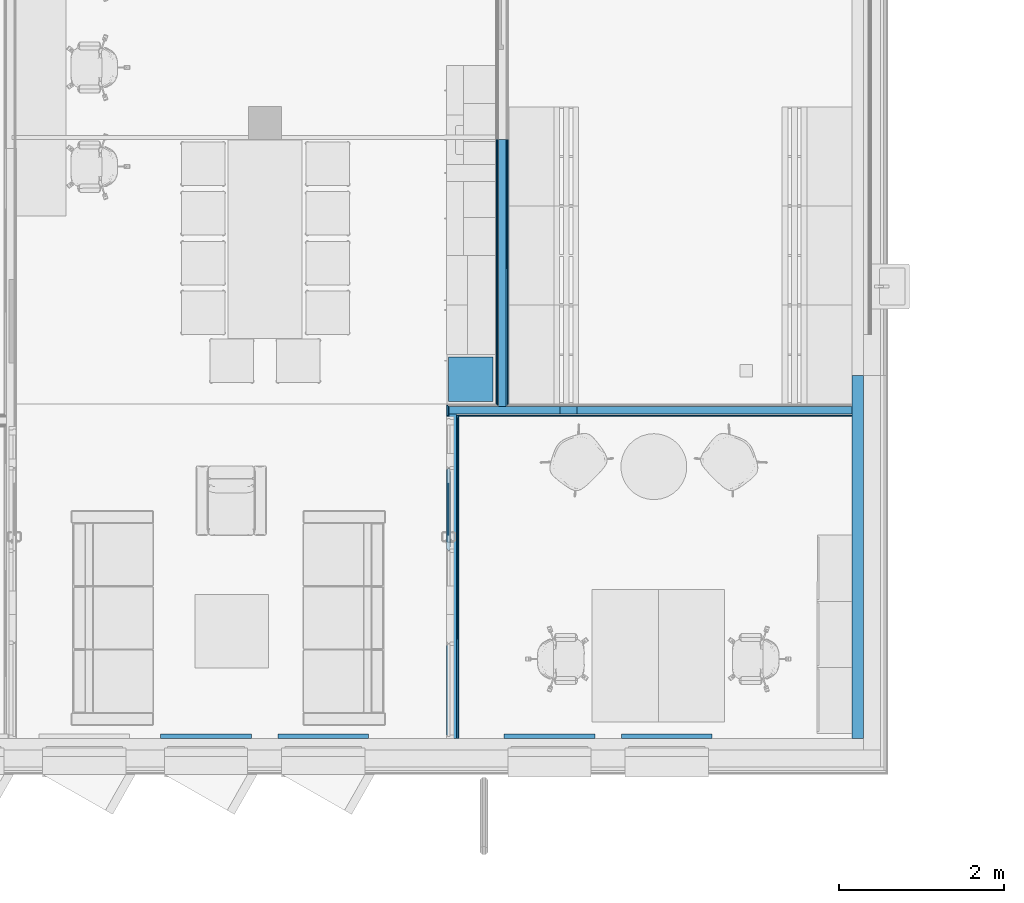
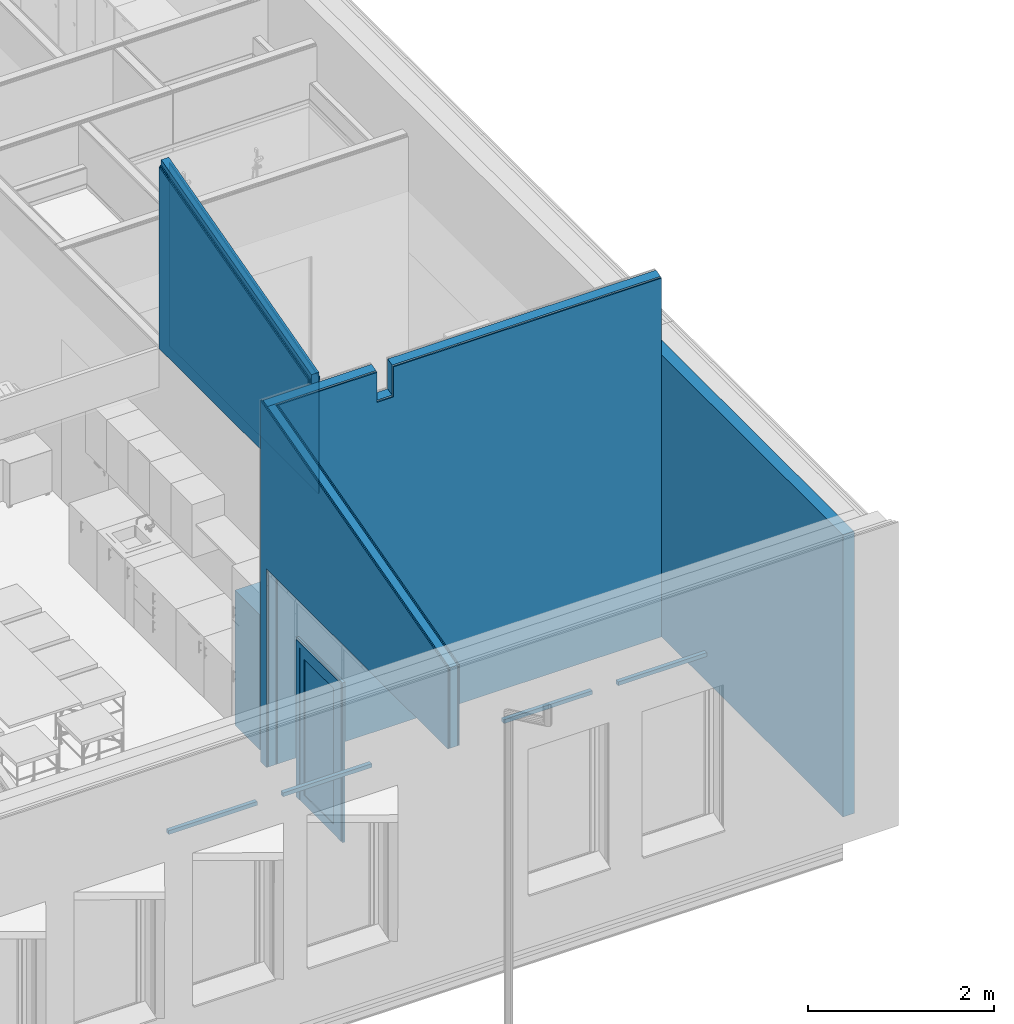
# One storey, part 70 of 153: 15 building element parts, 5 discrete accessories, 1 opening, 6 elements without a shape of their own.
"""IFC2X3 building model written with IfcOpenShell, lengths in millimetres."""

from ifc_helpers import new_model, entity, si_unit, converted_unit, derived_unit, money_unit, direction, frame, origin_with_axes, place, context, subcontext, project, spatial, faceted_brep, material, type_object, element, aggregate, save


model = new_model("IFC2X3")

# Units and contexts
model_context = context("Model", 3, precision=0.01, world=origin_with_axes(), true_north=direction((0.0, 1.0)))
body_context = subcontext(model_context, "Body", "Model", "MODEL_VIEW")
ifc_project = project(units=[si_unit("LENGTHUNIT", "METRE", prefix="MILLI"), si_unit("AREAUNIT", "SQUARE_METRE"), si_unit("VOLUMEUNIT", "CUBIC_METRE"), converted_unit("PLANEANGLEUNIT", "DEGREE", entity("IfcPlaneAngleMeasure", 0.0174532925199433), si_unit("PLANEANGLEUNIT", "RADIAN"), dimensions=[0, 0, 0, 0, 0, 0, 0]), money_unit("EUR"), converted_unit("TIMEUNIT", "Year", entity("IfcTimeMeasure", 31557600.0), si_unit("TIMEUNIT", "SECOND"), dimensions=[0, 0, 1, 0, 0, 0, 0]), si_unit("MASSUNIT", "GRAM", prefix="KILO"), si_unit("THERMODYNAMICTEMPERATUREUNIT", "DEGREE_CELSIUS"), si_unit("LUMINOUSINTENSITYUNIT", "LUMEN"), si_unit("ENERGYUNIT", "JOULE", prefix="MEGA"), derived_unit("THERMALCONDUCTANCEUNIT", [(si_unit("POWERUNIT", "WATT"), 1), (si_unit("LENGTHUNIT", "METRE"), -1), (si_unit("THERMODYNAMICTEMPERATUREUNIT", "KELVIN"), -1)]), derived_unit("SPECIFICHEATCAPACITYUNIT", [(si_unit("ENERGYUNIT", "JOULE"), 1), (si_unit("MASSUNIT", "GRAM", prefix="KILO"), -1), (si_unit("THERMODYNAMICTEMPERATUREUNIT", "KELVIN"), -1)]), derived_unit("MASSDENSITYUNIT", [(si_unit("MASSUNIT", "GRAM", prefix="KILO"), 1), (si_unit("VOLUMEUNIT", "CUBIC_METRE"), -1)])], contexts=[model_context])

# Site, building, storey
site_placement = place(None, frame((0.0, 0.0, 8650.0), z_axis=(0.0, 0.0, 1.0), x_axis=(1.0, 0.0, 0.0)))
site = spatial("IfcSite", under=ifc_project, at=site_placement, Name="43301:001:0844", CompositionType="ELEMENT")
building_placement = place(site_placement, origin_with_axes())
building = spatial("IfcBuilding", under=site, at=building_placement, Name="Kuressaare Ametikooli tuulikute mehaanikute õppekorpus", CompositionType="ELEMENT")
storey_placement = place(building_placement, frame((0.0, 0.0, 4100.0), z_axis=(0.0, 0.0, 1.0), x_axis=(1.0, 0.0, 0.0)))
storey = spatial("IfcBuildingStorey", under=building, at=storey_placement, Name="2.korrus", CompositionType="ELEMENT", Elevation=4100.0)

# Discrete accessories
ifc_material_1 = material(Name="GENEERILINE - KONSTRUKTRIOON")
discrete_accessory_type_1 = type_object("IfcDiscreteAccessoryType", Name="GENEERILINE - KONSTRUKTRIOON 50")
for number, where, z_axis, x_axis, name in (
    (1, (124652.3962682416, 9123.838490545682, 2700.0), (0.0, 0.0, 1.0), (1.0, 0.0, 0.0), "RK"),
    (2, (126073.0685117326, 9123.838490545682, 2700.0), (0.0, 0.0, 1.0), (1.0, 0.0, 0.0), "RK"),
):
    element("IfcDiscreteAccessory", number, at=place(storey_placement, frame(where, z_axis=z_axis, x_axis=x_axis)), inside=storey, type_object=discrete_accessory_type_1, material=ifc_material_1, Name=name, context=body_context, shape_type="Brep", body=[
        faceted_brep([(0.0, 0.0, 49.99999999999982), (0.0, 0.0, 0.0), (1099.999999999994, 0.0, 0.0), (1099.999999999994, 0.0, 49.99999999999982), (0.0, 50.00000000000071, 49.99999999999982), (0.0, 50.00000000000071, 0.0), (1099.999999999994, 50.00000000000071, 0.0), (1099.999999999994, 50.00000000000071, 49.99999999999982)], [[[0, 1, 2, 3]], [[4, 5, 1, 0]], [[2, 1, 5, 6]], [[3, 2, 6, 7]], [[4, 0, 3, 7]], [[7, 6, 5, 4]]]),
    ])
discrete_accessory_1_placement = place(storey_placement, frame((128813.0836581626, 9123.838490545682, 2700.0), z_axis=(0.0, 0.0, 1.0), x_axis=(1.0, 0.0, 0.0)))
element("IfcDiscreteAccessory", 3, at=discrete_accessory_1_placement, inside=storey, type_object=discrete_accessory_type_1, material=ifc_material_1, Name="RK", context=body_context, shape_type="Brep", body=[
    faceted_brep([(0.0, 0.0, 49.99999999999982), (0.0, 0.0, 0.0), (1099.999999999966, 0.0, 0.0), (1099.999999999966, 0.0, 49.99999999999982), (0.0, 50.00000000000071, 49.99999999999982), (0.0, 50.00000000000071, 0.0), (1099.999999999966, 50.00000000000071, 0.0), (1099.999999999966, 50.00000000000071, 49.99999999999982)], [[[0, 1, 2, 3]], [[4, 5, 1, 0]], [[2, 1, 5, 6]], [[3, 2, 6, 7]], [[4, 0, 3, 7]], [[7, 6, 5, 4]]]),
])
discrete_accessory_2_placement = place(storey_placement, frame((130233.7559016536, 9123.838490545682, 2700.0), z_axis=(0.0, 0.0, 1.0), x_axis=(1.0, 0.0, 0.0)))
element("IfcDiscreteAccessory", 4, at=discrete_accessory_2_placement, inside=storey, type_object=discrete_accessory_type_1, material=ifc_material_1, Name="RK", context=body_context, shape_type="Brep", body=[
    faceted_brep([(0.0, 0.0, 49.99999999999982), (0.0, 0.0, 0.0), (1100.000000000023, 0.0, 0.0), (1100.000000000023, 0.0, 49.99999999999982), (0.0, 50.00000000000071, 49.99999999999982), (0.0, 50.00000000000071, 0.0), (1100.000000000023, 50.00000000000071, 0.0), (1100.000000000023, 50.00000000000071, 49.99999999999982)], [[[0, 1, 2, 3]], [[4, 5, 1, 0]], [[2, 1, 5, 6]], [[3, 2, 6, 7]], [[4, 0, 3, 7]], [[7, 6, 5, 4]]]),
])
discrete_accessory_type_2 = type_object("IfcDiscreteAccessoryType", Name="Cube 27")
discrete_accessory_3_placement = place(storey_placement, frame((128677.9907946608, 13201.04672162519, 120.0000000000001), z_axis=(0.0, 0.0, 1.0), x_axis=(0.0, 1.0, 0.0)))
element("IfcDiscreteAccessory", 5, at=discrete_accessory_3_placement, inside=storey, type_object=discrete_accessory_type_2, Name="KK1", context=body_context, shape_type="Brep", body=[
    faceted_brep([(540.0, 0.0, 0.0), (0.0, 0.0, 0.0), (0.0, 540.0, 0.0), (540.0, 540.0, 0.0), (540.0, 0.0, 1770.0), (0.0, 0.0, 1770.0), (0.0, 540.0, 1770.0), (540.0, 540.0, 1770.0)], [[[0, 1, 2, 3]], [[1, 0, 4, 5]], [[2, 1, 5, 6]], [[3, 2, 6, 7]], [[0, 3, 7, 4]], [[5, 4, 7, 6]]]),
])

# Curtain wall, door, building element parts
curtain_wall_type = type_object("IfcCurtainWallType", Name="Curtain Wall Type", PredefinedType="NOTDEFINED")
curtain_wall_placement = place(storey_placement, frame((128142.9907946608, 12695.39546179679, 0.0), z_axis=(0.0, 0.0, 1.0), x_axis=(1.0, 0.0, 0.0)))
curtain_wall = element("IfcCurtainWall", 6, at=curtain_wall_placement, inside=storey, type_object=curtain_wall_type, Name="PKF-4")
door_style = type_object("IfcDoorStyle", Name="992 x 2070 x 30", ConstructionType="NOTDEFINED", OperationType="SINGLE_SWING_LEFT", ParameterTakesPrecedence=False, Sizeable=False)
door_placement = place(curtain_wall_placement, frame((0.0, -840.9757884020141, 899.9999908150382), z_axis=(0.0, 0.0, 1.0), x_axis=(0.0, -1.0, 0.0)))
door = element("IfcDoor", 7, at=door_placement, type_object=door_style, Name="PKU10,dB", OverallHeight=2070.0, OverallWidth=961.811)
aggregate(curtain_wall, [door])
ifc_material_2 = material(Name="Aluminium")
building_element_part_1_placement = place(door_placement, origin_with_axes())
building_element_part_1 = element("IfcBuildingElementPart", 8, at=building_element_part_1_placement, material=ifc_material_2, Name="Aluminium", context=body_context, shape_type="Brep", body=[
    faceted_brep([(-498.465792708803, -24.99999999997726, -889.9999819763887), (-498.465792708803, -29.99999999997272, -889.9999819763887), (-498.465792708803, -29.99999999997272, 1155.000001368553), (-498.465792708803, -24.99999999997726, 1155.000001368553), (-453.4657927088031, -24.99999999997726, -889.9999819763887), (-453.4657927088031, -29.99999999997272, -889.9999819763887), (-453.4657927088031, -29.99999999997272, 1110.000001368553), (-453.4657927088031, -24.99999999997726, 1110.000001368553)], [[[0, 1, 2, 3]], [[4, 5, 1, 0]], [[1, 5, 6, 2]], [[3, 2, 6, 7]], [[0, 3, 7, 4]], [[7, 6, 5, 4]]]),
    faceted_brep([(413.3451686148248, -24.99999999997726, 1155.000001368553), (413.3451686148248, -29.99999999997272, 1155.000001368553), (368.3451686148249, -29.99999999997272, 1110.000001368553), (368.3451686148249, -24.99999999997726, 1110.000001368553), (-498.465792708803, -24.99999999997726, 1155.000001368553), (-498.465792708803, -29.99999999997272, 1155.000001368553), (-453.4657927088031, -29.99999999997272, 1110.000001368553), (-453.4657927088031, -24.99999999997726, 1110.000001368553)], [[[0, 1, 2, 3]], [[4, 5, 1, 0]], [[1, 5, 6, 2]], [[3, 2, 6, 7]], [[0, 3, 7, 4]], [[7, 6, 5, 4]]]),
    faceted_brep([(413.3451686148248, -24.99999999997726, -889.9999819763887), (413.3451686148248, -29.99999999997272, -889.9999819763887), (368.3451686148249, -29.99999999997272, -889.9999819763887), (368.3451686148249, -24.99999999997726, -889.9999819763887), (413.3451686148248, -24.99999999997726, 1155.000001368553), (413.3451686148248, -29.99999999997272, 1155.000001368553), (368.3451686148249, -29.99999999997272, 1110.000001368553), (368.3451686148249, -24.99999999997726, 1110.000001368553)], [[[0, 1, 2, 3]], [[4, 5, 1, 0]], [[1, 5, 6, 2]], [[3, 2, 6, 7]], [[0, 3, 7, 4]], [[7, 6, 5, 4]]]),
    faceted_brep([(-523.4657927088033, 10.00000000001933, -889.9999819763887), (-523.4657927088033, -29.99999999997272, -889.9999819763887), (-523.4657927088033, -29.99999999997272, 1180.000001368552), (-523.4657927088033, 10.00000000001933, 1180.000001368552), (-498.465792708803, 10.00000000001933, -889.9999819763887), (-498.465792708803, -29.99999999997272, -889.9999819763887), (-498.465792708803, -29.99999999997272, 1155.000001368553), (-498.465792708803, 10.00000000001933, 1155.000001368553)], [[[0, 1, 2, 3]], [[4, 5, 1, 0]], [[1, 5, 6, 2]], [[3, 2, 6, 7]], [[0, 3, 7, 4]], [[7, 6, 5, 4]]]),
    faceted_brep([(438.3451686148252, 10.00000000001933, 1180.000001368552), (438.3451686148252, -29.99999999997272, 1180.000001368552), (413.3451686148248, -29.99999999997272, 1155.000001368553), (413.3451686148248, 10.00000000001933, 1155.000001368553), (-523.4657927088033, 10.00000000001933, 1180.000001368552), (-523.4657927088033, -29.99999999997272, 1180.000001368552), (-498.465792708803, -29.99999999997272, 1155.000001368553), (-498.465792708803, 10.00000000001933, 1155.000001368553)], [[[0, 1, 2, 3]], [[4, 5, 1, 0]], [[1, 5, 6, 2]], [[3, 2, 6, 7]], [[0, 3, 7, 4]], [[7, 6, 5, 4]]]),
    faceted_brep([(438.3451686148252, 10.00000000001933, -889.9999819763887), (438.3451686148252, -29.99999999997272, -889.9999819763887), (413.3451686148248, -29.99999999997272, -889.9999819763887), (413.3451686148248, 10.00000000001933, -889.9999819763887), (438.3451686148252, 10.00000000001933, 1180.000001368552), (438.3451686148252, -29.99999999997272, 1180.000001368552), (413.3451686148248, -29.99999999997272, 1155.000001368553), (413.3451686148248, 10.00000000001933, 1155.000001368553)], [[[0, 1, 2, 3]], [[4, 5, 1, 0]], [[1, 5, 6, 2]], [[3, 2, 6, 7]], [[0, 3, 7, 4]], [[7, 6, 5, 4]]]),
    faceted_brep([(-498.465792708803, 25.00000000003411, -889.9999819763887), (-498.465792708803, -24.99999999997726, -889.9999819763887), (-498.465792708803, -24.99999999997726, 1155.000001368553), (-498.465792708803, 25.00000000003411, 1155.000001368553), (-478.4657927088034, 25.00000000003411, -889.9999819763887), (-478.4657927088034, -24.99999999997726, -889.9999819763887), (-478.4657927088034, -24.99999999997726, 1135.000001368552), (-478.4657927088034, 25.00000000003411, 1135.000001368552)], [[[0, 1, 2, 3]], [[4, 5, 1, 0]], [[1, 5, 6, 2]], [[3, 2, 6, 7]], [[0, 3, 7, 4]], [[7, 6, 5, 4]]]),
    faceted_brep([(413.3451686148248, 25.00000000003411, 1155.000001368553), (413.3451686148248, -24.99999999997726, 1155.000001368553), (393.3451686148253, -24.99999999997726, 1135.000001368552), (393.3451686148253, 25.00000000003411, 1135.000001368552), (-498.465792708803, 25.00000000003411, 1155.000001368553), (-498.465792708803, -24.99999999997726, 1155.000001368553), (-478.4657927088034, -24.99999999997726, 1135.000001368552), (-478.4657927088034, 25.00000000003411, 1135.000001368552)], [[[0, 1, 2, 3]], [[4, 5, 1, 0]], [[1, 5, 6, 2]], [[3, 2, 6, 7]], [[0, 3, 7, 4]], [[7, 6, 5, 4]]]),
    faceted_brep([(413.3451686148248, 25.00000000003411, -889.9999819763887), (413.3451686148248, -24.99999999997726, -889.9999819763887), (393.3451686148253, -24.99999999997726, -889.9999819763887), (393.3451686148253, 25.00000000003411, -889.9999819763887), (413.3451686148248, 25.00000000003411, 1155.000001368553), (413.3451686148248, -24.99999999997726, 1155.000001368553), (393.3451686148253, -24.99999999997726, 1135.000001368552), (393.3451686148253, 25.00000000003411, 1135.000001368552)], [[[0, 1, 2, 3]], [[4, 5, 1, 0]], [[1, 5, 6, 2]], [[3, 2, 6, 7]], [[0, 3, 7, 4]], [[7, 6, 5, 4]]]),
    faceted_brep([(453.3451505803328, 15.00000000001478, -904.9999908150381), (453.3451505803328, -14.99999999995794, -904.9999908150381), (-538.4658038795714, -14.99999999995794, -904.9999908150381), (-538.4658038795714, 15.00000000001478, -904.9999908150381), (438.3451686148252, 15.00000000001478, -889.9999819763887), (438.3451686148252, -14.99999999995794, -889.9999819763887), (-523.4657927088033, -14.99999999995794, -889.9999819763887), (-523.4657927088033, 15.00000000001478, -889.9999819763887)], [[[0, 1, 2, 3]], [[4, 5, 1, 0]], [[1, 5, 6, 2]], [[3, 2, 6, 7]], [[0, 3, 7, 4]], [[7, 6, 5, 4]]]),
    faceted_brep([(-538.4658038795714, 15.00000000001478, -904.9999908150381), (-538.4658038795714, -14.99999999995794, -904.9999908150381), (-538.4658038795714, -14.99999999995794, 1194.999983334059), (-538.4658038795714, 15.00000000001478, 1194.999983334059), (-523.4657927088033, 15.00000000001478, -889.9999819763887), (-523.4657927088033, -14.99999999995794, -889.9999819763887), (-523.4657927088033, -14.99999999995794, 1180.000001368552), (-523.4657927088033, 15.00000000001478, 1180.000001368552)], [[[0, 1, 2, 3]], [[4, 5, 1, 0]], [[1, 5, 6, 2]], [[3, 2, 6, 7]], [[0, 3, 7, 4]], [[7, 6, 5, 4]]]),
    faceted_brep([(-538.4658038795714, 15.00000000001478, 1194.999983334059), (-538.4658038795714, -14.99999999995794, 1194.999983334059), (453.3451505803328, -14.99999999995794, 1194.999983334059), (453.3451505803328, 15.00000000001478, 1194.999983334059), (-523.4657927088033, 15.00000000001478, 1180.000001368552), (-523.4657927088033, -14.99999999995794, 1180.000001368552), (438.3451686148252, -14.99999999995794, 1180.000001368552), (438.3451686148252, 15.00000000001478, 1180.000001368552)], [[[0, 1, 2, 3]], [[4, 5, 1, 0]], [[1, 5, 6, 2]], [[3, 2, 6, 7]], [[0, 3, 7, 4]], [[7, 6, 5, 4]]]),
    faceted_brep([(453.3451505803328, 15.00000000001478, 1194.999983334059), (453.3451505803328, -14.99999999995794, 1194.999983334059), (453.3451505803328, -14.99999999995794, -904.9999908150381), (453.3451505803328, 15.00000000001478, -904.9999908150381), (438.3451686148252, 15.00000000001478, 1180.000001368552), (438.3451686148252, -14.99999999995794, 1180.000001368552), (438.3451686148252, -14.99999999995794, -889.9999819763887), (438.3451686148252, 15.00000000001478, -889.9999819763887)], [[[0, 1, 2, 3]], [[4, 5, 1, 0]], [[1, 5, 6, 2]], [[3, 2, 6, 7]], [[0, 3, 7, 4]], [[7, 6, 5, 4]]]),
    faceted_brep([(273.3451686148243, -24.99999999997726, -769.9999819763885), (273.3451686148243, -24.99999999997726, 1015.000001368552), (273.3451686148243, 25.00000000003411, 1015.000001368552), (273.3451686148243, 25.00000000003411, -769.9999819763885), (393.3451686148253, -24.99999999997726, -889.9999819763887), (393.3451686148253, -24.99999999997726, 1135.000001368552), (393.3451686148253, 25.00000000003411, 1135.000001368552), (393.3451686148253, 25.00000000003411, -889.9999819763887)], [[[0, 1, 2, 3]], [[0, 4, 5, 1]], [[1, 5, 6, 2]], [[3, 2, 6, 7]], [[4, 0, 3, 7]], [[5, 4, 7, 6]]]),
    faceted_brep([(-478.4657927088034, -24.99999999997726, -889.9999819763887), (-478.4657927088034, -24.99999999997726, 1135.000001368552), (-478.4657927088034, 25.00000000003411, 1135.000001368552), (-478.4657927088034, 25.00000000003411, -889.9999819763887), (-358.4657927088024, -24.99999999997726, -769.9999819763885), (-358.4657927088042, -24.99999999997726, 1015.000001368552), (-358.4657927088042, 25.00000000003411, 1015.000001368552), (-358.4657927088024, 25.00000000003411, -769.9999819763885)], [[[0, 1, 2, 3]], [[0, 4, 5, 1]], [[1, 5, 6, 2]], [[3, 2, 6, 7]], [[4, 0, 3, 7]], [[5, 4, 7, 6]]]),
    faceted_brep([(-478.4657927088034, -24.99999999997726, -889.9999819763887), (-358.4657927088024, -24.99999999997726, -769.9999819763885), (-358.4657927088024, 25.00000000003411, -769.9999819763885), (-478.4657927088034, 25.00000000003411, -889.9999819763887), (393.3451686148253, -24.99999999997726, -889.9999819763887), (273.3451686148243, -24.99999999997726, -769.9999819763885), (273.3451686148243, 25.00000000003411, -769.9999819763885), (393.3451686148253, 25.00000000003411, -889.9999819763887)], [[[0, 1, 2, 3]], [[0, 4, 5, 1]], [[1, 5, 6, 2]], [[3, 2, 6, 7]], [[4, 0, 3, 7]], [[5, 4, 7, 6]]]),
    faceted_brep([(393.3451686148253, -24.99999999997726, 1135.000001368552), (273.3451686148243, -24.99999999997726, 1015.000001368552), (273.3451686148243, 25.00000000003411, 1015.000001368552), (393.3451686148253, 25.00000000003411, 1135.000001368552), (-478.4657927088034, -24.99999999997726, 1135.000001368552), (-358.4657927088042, -24.99999999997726, 1015.000001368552), (-358.4657927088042, 25.00000000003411, 1015.000001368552), (-478.4657927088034, 25.00000000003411, 1135.000001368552)], [[[0, 1, 2, 3]], [[0, 4, 5, 1]], [[1, 5, 6, 2]], [[3, 2, 6, 7]], [[4, 0, 3, 7]], [[5, 4, 7, 6]]]),
])
ifc_material_3 = material(Name="Klaas")
building_element_part_2_placement = place(door_placement, origin_with_axes())
building_element_part_2 = element("IfcBuildingElementPart", 9, at=building_element_part_2_placement, material=ifc_material_3, Name="Klaas", context=body_context, shape_type="Brep", body=[
    faceted_brep([(273.3451686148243, -14.99999999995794, -769.9999819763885), (-358.4657927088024, -14.99999999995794, -769.9999819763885), (-358.4657927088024, 1.000000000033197, -769.9999819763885), (273.3451686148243, 1.000000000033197, -769.9999819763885), (273.3451686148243, -14.99999999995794, 1015.000001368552), (-358.4657927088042, -14.99999999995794, 1015.000001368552), (-358.4657927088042, 1.000000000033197, 1015.000001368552), (273.3451686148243, 1.000000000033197, 1015.000001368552)], [[[0, 1, 2, 3]], [[0, 4, 5, 1]], [[1, 5, 6, 2]], [[3, 2, 6, 7]], [[4, 0, 3, 7]], [[5, 4, 7, 6]]]),
])
aggregate(door, [building_element_part_1, building_element_part_2])

# Wall, building element part
wall_type_1 = type_object("IfcWallType", Name="VS1 437", PredefinedType="NOTDEFINED")
wall_1_placement = place(storey_placement, frame((133024.9464386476, 9123.838490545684, 0.0), z_axis=(0.0, 0.0, 1.0), x_axis=(0.0, 1.0, 0.0)))
wall_1 = element("IfcWall", 10, at=wall_1_placement, inside=storey, type_object=wall_type_1, Name="Sisesein")
ifc_material_4 = material(Name="Puit - CLT")
building_element_part_3_placement = place(wall_1_placement, origin_with_axes())
building_element_part_3 = element("IfcBuildingElementPart", 11, at=building_element_part_3_placement, material=ifc_material_4, Name="Puit - CLT", context=body_context, shape_type="Brep", body=[
    faceted_brep([(4393.819226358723, 0.0, 0.0), (4393.819226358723, -139.9999999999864, 0.0), (0.0, -139.9999999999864, 0.0), (0.0, 0.0, 0.0), (4393.819226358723, 0.0, 3699.999999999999), (4393.819226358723, -139.9999999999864, 3699.999999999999), (0.0, -139.9999999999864, 3699.999999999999), (0.0, 0.0, 3699.999999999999)], [[[0, 1, 2, 3]], [[0, 4, 5, 1]], [[1, 5, 6, 2]], [[3, 2, 6, 7]], [[4, 0, 3, 7]], [[5, 4, 7, 6]]]),
])
aggregate(wall_1, [building_element_part_3])

# Wall, building element parts
wall_type_2 = type_object("IfcWallType", Name="SS-2.1 147", PredefinedType="NOTDEFINED")
wall_2_placement = place(storey_placement, frame((133024.9464386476, 13171.04672162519, 0.0), z_axis=(0.0, 0.0, 1.0), x_axis=(-1.0, 0.0, 0.0)))
wall_2 = element("IfcWall", 12, at=wall_2_placement, inside=storey, type_object=wall_type_2, Name="Sisesein")
ifc_material_5 = material(Name="Kipsplaat")
building_element_part_4_placement = place(wall_2_placement, origin_with_axes())
building_element_part_4 = element("IfcBuildingElementPart", 13, at=building_element_part_4_placement, material=ifc_material_5, Name="Kipsplaat", context=body_context, shape_type="Brep", body=[
    faceted_brep([(3331.999867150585, 134.0000000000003, 4713.338971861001), (-7.599396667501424e-07, 134.0000000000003, 4713.33885224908), (0.0, 134.0000000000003, 0.0), (4772.955643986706, 134.0000000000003, 0.0), (4772.955643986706, 134.0000000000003, 4713.339023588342), (3531.999867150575, 134.0000000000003, 4713.338979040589), (3531.999867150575, 134.0000000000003, 4319.524178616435), (3331.999867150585, 134.0000000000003, 4319.524178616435), (-7.599965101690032e-07, 147.0000000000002, 4709.855512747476), (3331.999867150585, 147.0000000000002, 4709.855632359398), (0.0, 147.0000000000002, 0.0), (4772.955643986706, 147.0000000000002, 0.0), (4772.955643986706, 147.0000000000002, 4709.855684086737), (3531.999867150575, 147.0000000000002, 4709.855639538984), (3531.999867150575, 147.0000000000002, 4316.040840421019), (3331.999867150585, 147.0000000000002, 4316.040840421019)], [[[0, 1, 2, 3, 4, 5, 6, 7]], [[8, 1, 0, 9]], [[1, 8, 10, 2]], [[11, 3, 2, 10]], [[12, 4, 3, 11]], [[13, 5, 4, 12]], [[5, 13, 14, 6]], [[15, 7, 6, 14]], [[9, 0, 7, 15]], [[8, 9, 15, 14, 13, 12, 11, 10]]]),
])
ifc_material_6 = material(Name="Soojustus - Mineraalvill pehme")
building_element_part_5_placement = place(wall_2_placement, origin_with_axes())
building_element_part_5 = element("IfcBuildingElementPart", 14, at=building_element_part_5_placement, material=ifc_material_6, Name="Soojustus - Mineraalvill pehme", context=body_context, shape_type="Brep", body=[
    faceted_brep([(3331.999867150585, 25.99999999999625, 4742.277484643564), (-7.592859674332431e-07, 25.99999999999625, 4742.277365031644), (0.0, 25.9999999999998, 0.0), (4880.955643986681, 25.9999999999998, 0.0), (4880.955643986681, 25.9999999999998, 4742.277540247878), (4280.955643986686, 25.9999999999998, 4742.277518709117), (4185.955643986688, 25.9999999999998, 4742.277515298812), (3531.999867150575, 25.99999999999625, 4742.277491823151), (3531.999867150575, 25.99999999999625, 4348.46268054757), (3331.999867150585, 25.99999999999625, 4348.46268054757), (-7.598544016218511e-07, 121.0000000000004, 4716.822191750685), (3331.999867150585, 121.0000000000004, 4716.822311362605), (0.0, 121.0000000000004, 0.0), (4880.955643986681, 121.0000000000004, 0.0), (4880.955643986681, 121.0000000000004, 4716.822366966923), (3531.999867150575, 121.0000000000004, 4716.822318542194), (3531.999867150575, 121.0000000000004, 4323.007516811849), (3331.999867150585, 121.0000000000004, 4323.007516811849)], [[[0, 1, 2, 3, 4, 5, 6, 7, 8, 9]], [[10, 1, 0, 11]], [[1, 10, 12, 2]], [[13, 3, 2, 12]], [[14, 4, 3, 13]], [[15, 7, 6, 5, 4, 14]], [[7, 15, 16, 8]], [[17, 9, 8, 16]], [[11, 0, 9, 17]], [[10, 11, 17, 16, 15, 14, 13, 12]]]),
])
aggregate(wall_2, [building_element_part_4, building_element_part_5])

# Wall, opening, building element parts
wall_3_placement = place(storey_placement, frame((128117.9907946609, 9123.838490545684, 0.0), z_axis=(0.0, 0.0, 1.0), x_axis=(0.0, 1.0, 0.0)))
wall_3 = element("IfcWall", 15, at=wall_3_placement, inside=storey, type_object=wall_type_2, Name="Sisesein")
opening_placement = place(wall_3_placement, frame((1950.104115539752, 0.0, 0.0), z_axis=(0.0, 0.0, 1.0), x_axis=(1.0, 0.0, 0.0)))
element("IfcOpeningElement", 16, at=opening_placement, cuts=wall_3, Name="ava", context=body_context, shape_type="Brep", body=[
    faceted_brep([(-1950.104115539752, 0.0, 2610.000000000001), (1950.104115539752, 0.0, 2610.000000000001), (1950.104115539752, 1.000000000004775, 2610.000000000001), (-1950.104115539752, 1.000000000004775, 2610.000000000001), (-1950.104115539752, -147.9999999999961, 2610.000000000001), (1950.104115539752, -147.9999999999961, 2610.000000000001), (1950.104115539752, 0.0, 0.0), (1950.104115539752, 1.000000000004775, 0.0), (-1950.104115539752, 1.000000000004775, 0.0), (-1950.104115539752, 0.0, 0.0), (-1950.104115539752, -147.9999999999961, 0.0), (1950.104115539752, -147.9999999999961, 0.0)], [[[0, 1, 2, 3]], [[1, 0, 4, 5]], [[1, 6, 7, 2]], [[7, 8, 3, 2]], [[9, 0, 3, 8]], [[0, 9, 10, 4]], [[4, 10, 11, 5]], [[6, 1, 5, 11]], [[6, 9, 8, 7]], [[9, 6, 11, 10]]]),
])
building_element_part_6_placement = place(wall_3_placement, origin_with_axes())
building_element_part_6 = element("IfcBuildingElementPart", 17, at=building_element_part_6_placement, material=ifc_material_5, Name="Kipsplaat", context=body_context, shape_type="Brep", body=[
    faceted_brep([(4034.208231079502, -1.84172677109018e-08, 4745.76088068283), (4034.208231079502, -13.00000000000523, 4745.760880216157), (4034.208231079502, -13.00000000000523, 0.0), (4034.208231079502, 0.0, 0.0), (0.002353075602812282, -13.00000000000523, 3664.798673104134), (0.002352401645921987, -5.404388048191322e-07, 3664.798673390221), (0.0, -13.00000000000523, 2610.000000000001), (3900.208231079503, -13.00000000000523, 2610.000000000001), (3900.208231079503, -13.00000000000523, 0.0), (3900.208231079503, 0.0, 0.0), (3900.208231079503, 0.0, 2610.000000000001), (0.0, 0.0, 2610.000000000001)], [[[0, 1, 2, 3]], [[4, 1, 0, 5]], [[1, 4, 6, 7, 8, 2]], [[2, 8, 9, 3]], [[5, 0, 3, 9, 10, 11]], [[4, 5, 11, 6]], [[10, 7, 6, 11]], [[9, 8, 7, 10]]]),
])
building_element_part_7_placement = place(wall_3_placement, origin_with_axes())
building_element_part_7 = element("IfcBuildingElementPart", 18, at=building_element_part_7_placement, material=ifc_material_5, Name="Kipsplaat", context=body_context, shape_type="Brep", body=[
    faceted_brep([(4021.208231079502, -13.00000000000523, 4742.277540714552), (4021.208231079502, -26.00000000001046, 4742.277540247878), (4021.208231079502, -26.00000000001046, 0.0), (4021.208231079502, -13.00000000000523, 0.0), (0.002353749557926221, -26.00000000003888, 3664.798672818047), (0.002353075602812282, -13.00000000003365, 3664.798673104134), (0.0, -26.00000000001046, 2610.000000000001), (3900.208231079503, -26.00000000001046, 2610.000000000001), (3900.208231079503, -26.00000000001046, 0.0), (3900.208231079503, -13.00000000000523, 0.0), (3900.208231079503, -13.00000000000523, 2610.000000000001), (0.0, -13.00000000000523, 2610.000000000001)], [[[0, 1, 2, 3]], [[4, 1, 0, 5]], [[1, 4, 6, 7, 8, 2]], [[2, 8, 9, 3]], [[5, 0, 3, 9, 10, 11]], [[4, 5, 11, 6]], [[10, 7, 6, 11]], [[9, 8, 7, 10]]]),
])
building_element_part_8_placement = place(wall_3_placement, origin_with_axes())
building_element_part_8 = element("IfcBuildingElementPart", 19, at=building_element_part_8_placement, material=ifc_material_6, Name="Soojustus - Mineraalvill pehme", context=body_context, shape_type="Brep", body=[
    faceted_brep([(3926.208231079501, -26.00000000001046, 4716.822366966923), (3926.208231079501, -121.0000000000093, 4716.822363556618), (3926.208231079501, -121.0000000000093, 0.0), (3926.208231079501, -26.00000000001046, 0.0), (0.002358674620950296, -121.0000000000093, 3664.798670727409), (0.002353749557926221, -26.00000000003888, 3664.798672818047), (0.0, -121.0000000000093, 2610.000000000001), (3900.208231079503, -121.0000000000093, 2610.000000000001), (3900.208231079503, -121.0000000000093, 3.000000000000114), (3900.208227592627, -121.0000000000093, 0.0), (3900.208231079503, -90.00000000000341, 0.0), (3900.208231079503, -26.00000000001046, 0.0), (3900.208231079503, -26.00000000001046, 2610.000000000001), (0.0, -26.00000000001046, 2610.000000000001), (3900.208231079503, -90.00000000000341, 3.000000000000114)], [[[0, 1, 2, 3]], [[4, 1, 0, 5]], [[1, 4, 6, 7, 8, 9, 2]], [[9, 10, 11, 3, 2]], [[5, 0, 3, 11, 12, 13]], [[4, 5, 13, 6]], [[12, 7, 6, 13]], [[14, 8, 7, 12, 11, 10]], [[8, 14, 10, 9]]]),
])
building_element_part_9_placement = place(wall_3_placement, origin_with_axes())
building_element_part_9 = element("IfcBuildingElementPart", 20, at=building_element_part_9_placement, material=ifc_material_5, Name="Kipsplaat", context=body_context, shape_type="Brep", body=[
    faceted_brep([(3913.208231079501, -121.0000000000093, 4713.339024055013), (3913.208231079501, -133.9999999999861, 4713.339023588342), (3913.208231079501, -133.9999999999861, 0.0), (3913.208231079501, -121.0000000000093, 0.0), (0.002359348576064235, -133.9999999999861, 3664.798670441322), (0.002358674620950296, -121.0000000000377, 3664.798670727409), (0.0, -133.9999999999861, 2610.000000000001), (3900.208231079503, -133.9999999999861, 2610.000000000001), (3900.208231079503, -133.9999999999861, 3.000000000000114), (3900.208229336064, -133.9999999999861, 0.0), (3900.208227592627, -121.0000000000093, 0.0), (3900.208231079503, -121.0000000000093, 3.000000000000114), (3900.208231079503, -121.0000000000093, 2610.000000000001), (0.0, -121.0000000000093, 2610.000000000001)], [[[0, 1, 2, 3]], [[4, 1, 0, 5]], [[1, 4, 6, 7, 8, 9, 2]], [[9, 10, 3, 2]], [[5, 0, 3, 10, 11, 12, 13]], [[4, 5, 13, 6]], [[12, 7, 6, 13]], [[11, 8, 7, 12]], [[9, 8, 11, 10]]]),
])
building_element_part_10_placement = place(wall_3_placement, origin_with_axes())
building_element_part_10 = element("IfcBuildingElementPart", 21, at=building_element_part_10_placement, material=ifc_material_5, Name="Kipsplaat", context=body_context, shape_type="Brep", body=[
    faceted_brep([(3900.208231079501, -133.9999999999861, 4709.855684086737), (3900.208231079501, -146.9999999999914, 4709.855683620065), (3900.208231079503, -146.9999999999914, 2610.000000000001), (3900.208231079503, -133.9999999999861, 2610.000000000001), (0.002360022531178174, -146.9999999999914, 3664.798670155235), (0.002359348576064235, -134.0000000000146, 3664.798670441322), (0.0, -146.9999999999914, 2610.000000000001), (0.0, -133.9999999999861, 2610.000000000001)], [[[0, 1, 2, 3]], [[4, 1, 0, 5]], [[1, 4, 6, 2]], [[7, 3, 2, 6]], [[5, 0, 3, 7]], [[4, 5, 7, 6]]]),
])
aggregate(wall_3, [building_element_part_6, building_element_part_7, building_element_part_8, building_element_part_9, building_element_part_10])

# Wall, building element parts
wall_4_placement = place(storey_placement, frame((128717.9907946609, 16374.04687498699, 3260.712739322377), z_axis=(0.0, 0.0, 1.0), x_axis=(0.0, -1.0, 0.0)))
wall_4 = element("IfcWall", 22, at=wall_4_placement, inside=storey, type_object=wall_type_2, Name="Sisesein")
building_element_part_11_placement = place(wall_4_placement, origin_with_axes())
building_element_part_11 = element("IfcBuildingElementPart", 23, at=building_element_part_11_placement, material=ifc_material_5, Name="Kipsplaat", context=body_context, shape_type="Brep", body=[
    faceted_brep([(-0.0001674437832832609, 120.9999999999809, 2403.712994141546), (-0.0001675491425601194, 133.9999999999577, 2403.712993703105), (7.947264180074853e-06, 133.9999999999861, 330.0000000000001), (7.947264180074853e-06, 121.0000000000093, 330.0000000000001), (3216.000153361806, 133.9999999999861, 1541.988304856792), (3216.000153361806, 121.0000000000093, 1541.988305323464), (3216.000153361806, 133.9999999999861, 0.0), (0.0, 133.9999999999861, 0.0), (0.0, 121.0000000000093, 0.0), (3216.000153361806, 121.0000000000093, 0.0)], [[[0, 1, 2, 3]], [[4, 1, 0, 5]], [[1, 4, 6, 7, 2]], [[7, 8, 3, 2]], [[5, 0, 3, 8, 9]], [[4, 5, 9, 6]], [[8, 7, 6, 9]]]),
])
building_element_part_12_placement = place(wall_4_placement, origin_with_axes())
building_element_part_12 = element("IfcBuildingElementPart", 24, at=building_element_part_12_placement, material=ifc_material_6, Name="Soojustus - Mineraalvill pehme", context=body_context, shape_type="Brep", body=[
    faceted_brep([(-0.0001723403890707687, 25.99999999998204, 2471.005950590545), (-0.0001731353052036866, 120.9999999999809, 2471.005947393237), (7.947264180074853e-06, 121.0000000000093, 330.0000000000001), (7.947264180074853e-06, 26.00000000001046, 330.0000000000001), (3229.000153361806, 121.0000000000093, 1605.797917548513), (3229.000153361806, 26.00000000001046, 1605.797920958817), (3229.000153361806, 121.0000000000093, 0.0), (0.0, 121.0000000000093, 0.0), (0.0, 26.00000000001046, 0.0), (3229.000153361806, 26.00000000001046, 0.0)], [[[0, 1, 2, 3]], [[4, 1, 0, 5]], [[1, 4, 6, 7, 2]], [[7, 8, 3, 2]], [[5, 0, 3, 8, 9]], [[4, 5, 9, 6]], [[8, 7, 6, 9]]]),
])
building_element_part_13_placement = place(wall_4_placement, origin_with_axes())
building_element_part_13 = element("IfcBuildingElementPart", 25, at=building_element_part_13_placement, material=ifc_material_5, Name="Kipsplaat", context=body_context, shape_type="Brep", body=[
    faceted_brep([(-0.0001662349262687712, 133.9999999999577, 2388.183850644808), (-0.0001663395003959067, 146.9999977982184, 2388.183850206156), (7.947264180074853e-06, 146.9999999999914, 330.0000000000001), (7.947264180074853e-06, 133.9999999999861, 330.0000000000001), (3203.000153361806, 146.9999947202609, 1529.942501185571), (3203.000153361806, 133.9999999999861, 1529.942501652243), (3203.000153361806, 146.9999999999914, 0.0), (0.0, 146.9999999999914, 0.0), (0.0, 133.9999999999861, 0.0), (3203.000153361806, 133.9999999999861, 0.0)], [[[0, 1, 2, 3]], [[4, 1, 0, 5]], [[1, 4, 6, 7, 2]], [[7, 8, 3, 2]], [[5, 0, 3, 8, 9]], [[4, 5, 9, 6]], [[8, 7, 6, 9]]]),
])
building_element_part_14_placement = place(wall_4_placement, origin_with_axes())
building_element_part_14 = element("IfcBuildingElementPart", 26, at=building_element_part_14_placement, material=ifc_material_5, Name="Kipsplaat", context=body_context, shape_type="Brep", body=[
    faceted_brep([(-0.0001651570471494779, 0.0, 2388.183855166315), (-0.0001652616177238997, 12.99999999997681, 2388.183854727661), (7.947264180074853e-06, 13.00000000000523, 330.0000000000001), (7.947264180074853e-06, 0.0, 330.0000000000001), (3203.000153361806, 13.00000000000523, 1529.942505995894), (3203.000153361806, 0.0, 1529.942506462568), (3203.000153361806, 13.00000000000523, 0.0), (0.0, 13.00000000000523, 0.0), (0.0, 0.0, 0.0), (3203.000153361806, 0.0, 0.0)], [[[0, 1, 2, 3]], [[4, 1, 0, 5]], [[1, 4, 6, 7, 2]], [[7, 8, 3, 2]], [[5, 0, 3, 8, 9]], [[4, 5, 9, 6]], [[8, 7, 6, 9]]]),
])
building_element_part_15_placement = place(wall_4_placement, origin_with_axes())
building_element_part_15 = element("IfcBuildingElementPart", 27, at=building_element_part_15_placement, material=ifc_material_5, Name="Kipsplaat", context=body_context, shape_type="Brep", body=[
    faceted_brep([(-0.0001665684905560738, 12.99999999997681, 2403.712997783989), (-0.0001666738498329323, 25.99999999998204, 2403.712997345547), (7.947264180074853e-06, 26.00000000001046, 330.0000000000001), (7.947264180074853e-06, 13.00000000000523, 330.0000000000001), (3216.000153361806, 26.00000000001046, 1541.988308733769), (3216.000153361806, 13.00000000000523, 1541.988309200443), (3216.000153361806, 26.00000000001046, 0.0), (0.0, 26.00000000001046, 0.0), (0.0, 13.00000000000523, 0.0), (3216.000153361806, 13.00000000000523, 0.0)], [[[0, 1, 2, 3]], [[4, 1, 0, 5]], [[1, 4, 6, 7, 2]], [[7, 8, 3, 2]], [[5, 0, 3, 8, 9]], [[4, 5, 9, 6]], [[8, 7, 6, 9]]]),
])
aggregate(wall_4, [building_element_part_11, building_element_part_12, building_element_part_13, building_element_part_14, building_element_part_15])

save(model, "model.ifc")
